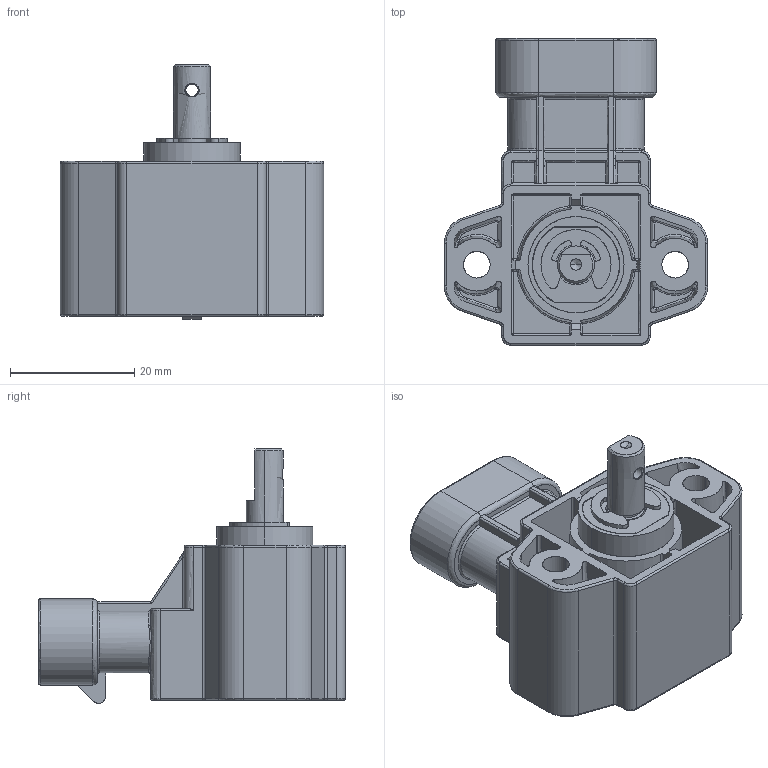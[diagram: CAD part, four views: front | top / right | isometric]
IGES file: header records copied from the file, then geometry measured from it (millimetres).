
Start section: SolidWorks IGES file using analytic representation for surfaces
Global section: file name: \\srv4gefran\dir-cat\Disegni Catalogo\Mobile\GR3P\GR3P 32\3D\Solidworks 2024\GR3PA S3H1SL xxx xxxx X0.IGS; native system: SolidWorks 2024; preprocessor: SolidWorks 2024; author: Loda-w1; date: 241219.154953; units: millimetre
Bounding box: 42.5 x 49.5 x 41.07 mm (x, y, z)
Surface area: 13047.2 mm2 (no closed solid volume)
Topology: 0 solids, 0 shells, 640 faces, 5605 edges, 5564 vertices
Faces by surface type: bspline 352, revolution 288
